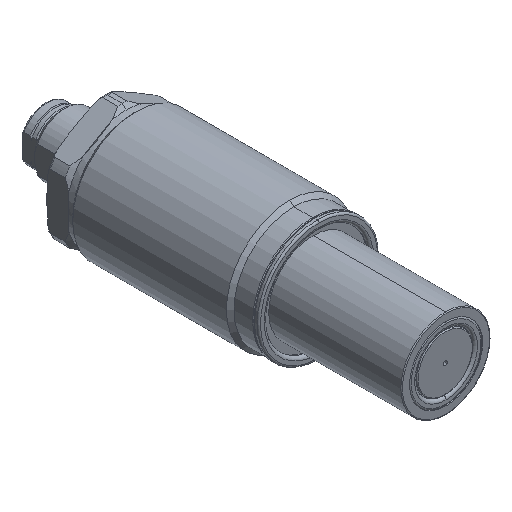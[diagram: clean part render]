
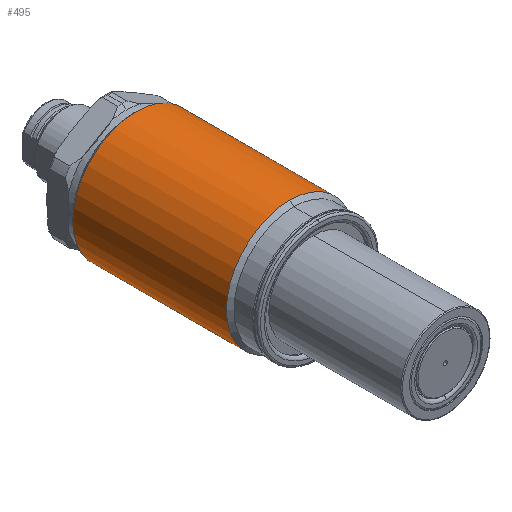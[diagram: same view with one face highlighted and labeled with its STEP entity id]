
A CAD part, isometric view. The second image highlights one B-rep face of the part: STEP entity #495.
In plain terms, the highlighted cylindrical face has radius 15 mm (diameter 30 mm), a full revolution.
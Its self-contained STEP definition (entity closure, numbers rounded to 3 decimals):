
#334=FACE_BOUND('',#885,.T.);
#335=FACE_BOUND('',#886,.T.);
#495=ADVANCED_FACE('',(#334,#335),#605,.T.);
#605=CYLINDRICAL_SURFACE('',#3010,15.);
#885=EDGE_LOOP('',(#1579,#1580));
#886=EDGE_LOOP('',(#1581,#1582,#1583,#1584,#1585,#1586));
#1026=LINE('',#4735,#1123);
#1027=LINE('',#4737,#1124);
#1123=VECTOR('',#3708,1.);
#1124=VECTOR('',#3709,1.);
#1579=ORIENTED_EDGE('',*,*,#2375,.T.);
#1580=ORIENTED_EDGE('',*,*,#2376,.T.);
#1581=ORIENTED_EDGE('',*,*,#2377,.T.);
#1582=ORIENTED_EDGE('',*,*,#2377,.F.);
#1583=ORIENTED_EDGE('',*,*,#2370,.F.);
#1584=ORIENTED_EDGE('',*,*,#2378,.T.);
#1585=ORIENTED_EDGE('',*,*,#2378,.F.);
#1586=ORIENTED_EDGE('',*,*,#2354,.F.);
#2052=VERTEX_POINT('',#4686);
#2053=VERTEX_POINT('',#4688);
#2060=VERTEX_POINT('',#4732);
#2061=VERTEX_POINT('',#4733);
#2062=VERTEX_POINT('',#4736);
#2063=VERTEX_POINT('',#4738);
#2354=EDGE_CURVE('',#2052,#2053,#2668,.T.);
#2370=EDGE_CURVE('',#2053,#2052,#2679,.T.);
#2375=EDGE_CURVE('',#2060,#2061,#2684,.T.);
#2376=EDGE_CURVE('',#2061,#2060,#2685,.T.);
#2377=EDGE_CURVE('',#2052,#2062,#1026,.T.);
#2378=EDGE_CURVE('',#2053,#2063,#1027,.T.);
#2668=CIRCLE('',#2976,15.);
#2679=CIRCLE('',#2995,15.);
#2684=CIRCLE('',#3008,15.);
#2685=CIRCLE('',#3009,15.);
#2976=AXIS2_PLACEMENT_3D('',#4687,#3635,#3636);
#2995=AXIS2_PLACEMENT_3D('',#4718,#3678,#3679);
#3008=AXIS2_PLACEMENT_3D('',#4731,#3704,#3705);
#3009=AXIS2_PLACEMENT_3D('',#4734,#3706,#3707);
#3010=AXIS2_PLACEMENT_3D('',#4739,#3710,#3711);
#3635=DIRECTION('',(0.,-1.,0.));
#3636=DIRECTION('',(0.,0.,-1.));
#3678=DIRECTION('',(0.,-1.,0.));
#3679=DIRECTION('',(0.,0.,-1.));
#3704=DIRECTION('',(0.,-1.,0.));
#3705=DIRECTION('',(0.,0.,-1.));
#3706=DIRECTION('',(0.,-1.,0.));
#3707=DIRECTION('',(0.,0.,-1.));
#3708=DIRECTION('',(0.,1.,0.));
#3709=DIRECTION('',(0.,1.,0.));
#3710=DIRECTION('',(0.,-1.,0.));
#3711=DIRECTION('',(0.,0.,1.));
#4686=CARTESIAN_POINT('',(0.,35.6,-15.));
#4687=CARTESIAN_POINT('',(0.,35.6,0.));
#4688=CARTESIAN_POINT('',(0.,35.6,15.));
#4718=CARTESIAN_POINT('',(0.,35.6,0.));
#4731=CARTESIAN_POINT('',(0.,71.9,0.));
#4732=CARTESIAN_POINT('',(0.,71.9,-15.));
#4733=CARTESIAN_POINT('',(0.,71.9,15.));
#4734=CARTESIAN_POINT('',(0.,71.9,0.));
#4735=CARTESIAN_POINT('',(0.,0.,-15.));
#4736=CARTESIAN_POINT('',(0.,64.3,-15.));
#4737=CARTESIAN_POINT('',(0.,0.,15.));
#4738=CARTESIAN_POINT('',(0.,64.3,15.));
#4739=CARTESIAN_POINT('',(0.,0.,0.));
